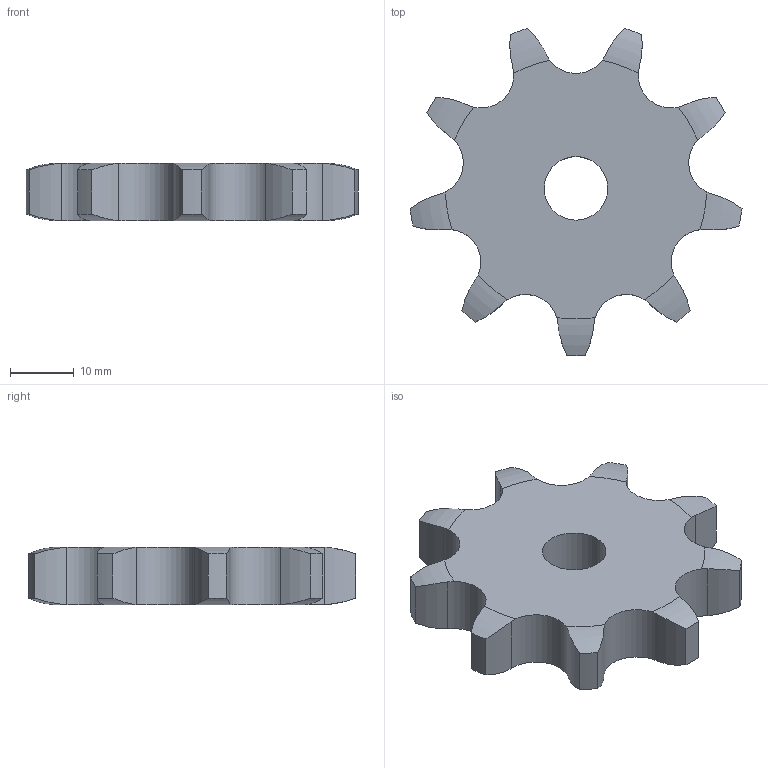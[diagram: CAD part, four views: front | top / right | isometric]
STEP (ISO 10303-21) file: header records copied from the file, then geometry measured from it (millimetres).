
FILE_DESCRIPTION((''),'2;1');
FILE_NAME('500-301-0009_PRT','2021-02-12T',('Brieden'),('Brieden'),'PRO/ENGINEER BY PARAMETRIC TECHNOLOGY CORPORATION, 2010160','PRO/ENGINEER BY PARAMETRIC TECHNOLOGY CORPORATION, 2010160','');
FILE_SCHEMA(('AUTOMOTIVE_DESIGN { 1 0 10303 214 1 1 1 1 }'));
Length unit declared in the file: millimetre
Products named in the file (1): 500-301-0009_PRT
Bounding box: 52.22 x 51.46 x 9.1 mm (x, y, z)
Volume: 12323.9 mm3; surface area: 4927.3 mm2
Topology: 1 solids, 1 shells, 58 faces, 168 edges, 112 vertices
Faces by surface type: cylinder 38, torus 18, plane 2
Entity records: 2724 total; most frequent: CARTESIAN_POINT 701, ORIENTED_EDGE 336, DIRECTION 270, PRESENTATION_STYLE_ASSIGNMENT 169, STYLED_ITEM 169, CURVE_STYLE 168, EDGE_CURVE 168, AXIS2_PLACEMENT_3D 116
